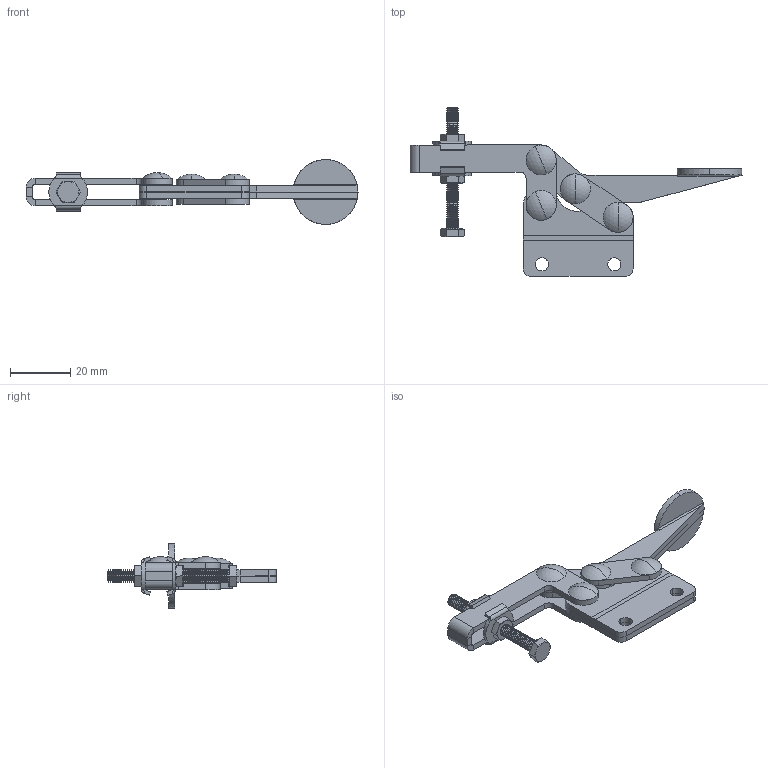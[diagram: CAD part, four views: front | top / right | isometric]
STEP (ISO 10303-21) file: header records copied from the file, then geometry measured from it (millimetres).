
FILE_DESCRIPTION (( 'STEP AP214' ), '1' );
FILE_NAME ('ISK-03S0.STEP', '2015-06-29T09:53:28', ( '' ), ( '' ), 'SwSTEP 2.0', 'SolidWorks 2015', '' );
FILE_SCHEMA (( 'AUTOMOTIVE_DESIGN' ));
Length unit declared in the file: millimetre
Products named in the file (9): Handle; Link; Arm; Base; ISK-03S0; hexagon nut_3_jis_JIS B 1181 Hexagon nut - Class 3 Finished M4 --N; continuous thread hexagon head bolt_a_jis_JIS B 1180 Continuous thread hexagon head bolt A M4 x 40 --S; Washer_D5-9; truss head semi-tubuar rivets gb_GB_RIVETS_ROUND_TYPE90 4X8
Assembly tree (14 placements, depth 2):
  ISK-03S0
    Base
    Arm
    Link  x2
    Handle
    truss head semi-tubuar rivets gb_GB_RIVETS_ROUND_TYPE90 4X8  x4
    Washer_D5-9  x2
    continuous thread hexagon head bolt_a_jis_JIS B 1180 Continuous thread hexagon head bolt A M4 x 40 --S
    hexagon nut_3_jis_JIS B 1181 Hexagon nut - Class 3 Finished M4 --N  x2
Bounding box: 110.13 x 55.96 x 21.5 mm (x, y, z)
Volume: 10960.6 mm3; surface area: 14816.1 mm2
Topology: 16 solids, 16 shells, 687 faces, 1706 edges, 1052 vertices
Faces by surface type: cone 276, cylinder 240, plane 145, torus 10, sphere 8, bspline 8
Entity records: 18387 total; most frequent: DIRECTION 3405, CARTESIAN_POINT 3278, ORIENTED_EDGE 2966, EDGE_CURVE 1483, AXIS2_PLACEMENT_3D 1389, VERTEX_POINT 922, CIRCLE 792, LINE 627
